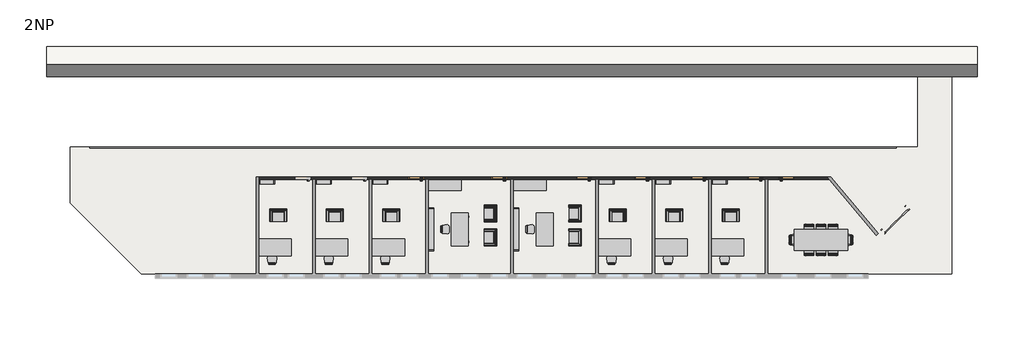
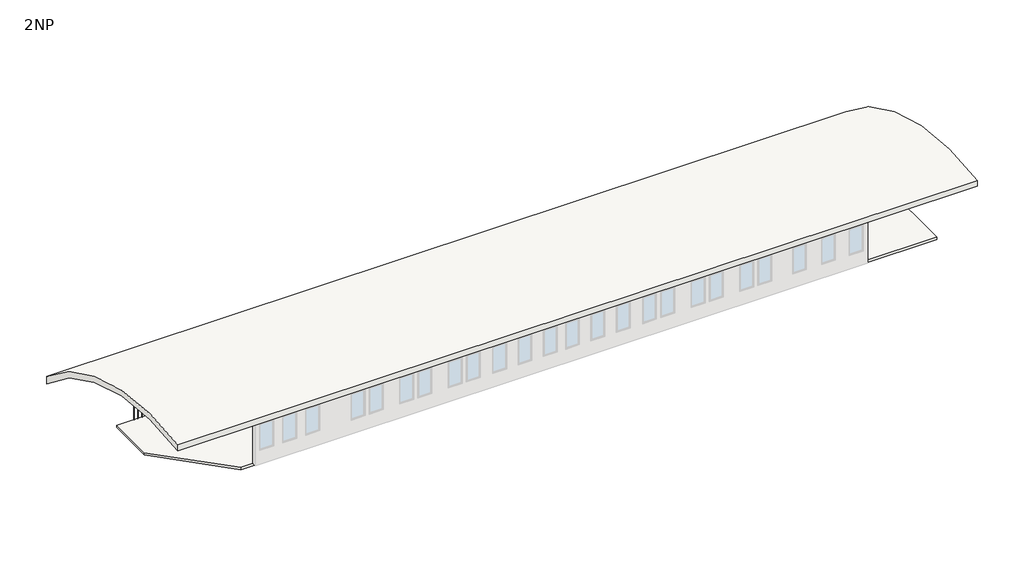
# One storey, part 2 of 2: 45 furniture elements, 7 doors, 1 railing, 1 roof, 1 slab, 1 wall.
"""IFC4 building model written with IfcOpenShell, lengths in millimetres."""

from ifc_helpers import new_model, si_unit, point, frame, frame_2d, origin, place, context, project, spatial, polyline, circle_curve, trimmed, segment, composite_curve, outline, extrude, faceted_brep, transform, mapped, element, save
from components import door_900_x_2000_c64c60ef, door_900_x_2000_4c66a93d, chair_desk_4_chair_task_arms_3b363349, chair_desk_5_chair_task_b7f3823b, m_chair_corbu_m_chair_corbu_2764bdef, m_chair_desk_desk_chair_ccc35c8f, m_credenza_1830_x_0610mm_1080a9db, m_desk_1830_x_915mm_d81ff609, m_shelving_0915_x_0254_x_1830mm_1d5e155e, m_shelving_2440_x_0305_x_2134mm_59c1a9e4, table_conference_w_chairs_1200_x_3050mm_930714f4, railing_1100mm_11e5196f, railing_1100mm_f5e6f717

model = new_model("IFC4")

# Units and contexts
model_context = context("Model", 3, world=origin())
ifc_project = project(units=[si_unit("LENGTHUNIT", "METRE", prefix="MILLI")], contexts=[model_context])

# Site, building, storey
site = spatial("IfcSite", under=ifc_project)
building = spatial("IfcBuilding", under=site)
storey = spatial("IfcBuildingStorey", under=building, Name="2NP", Elevation=4000.0)

# Doors
placement = place(None, origin())
door_900_x_2000_shape = door_900_x_2000_c64c60ef(model_context)
element("IfcDoor", 1, ObjectType="Jednokridle oboustrana zaruben : 900 x 2000", at=placement, inside=storey, context=model_context, shape_type="MappedRepresentation", body=[
    mapped(door_900_x_2000_shape, transform((29095.9255273, 791.5551306, 4000.0), x_axis=(-1.0, 0.0, 0.0), y_axis=(0.0, -1.0, 0.0), z_axis=(0.0, 0.0, 1.0))),
])
door_900_x_2000_2_shape = door_900_x_2000_4c66a93d(model_context)
element("IfcDoor", 2, ObjectType="Jednokridle oboustrana zaruben : 900 x 2000", at=placement, inside=storey, context=model_context, shape_type="MappedRepresentation", body=[
    mapped(door_900_x_2000_2_shape, transform((8182.4255273, 791.5551306, 4000.0), x_axis=(1.0, 0.0, 0.0), y_axis=(0.0, 1.0, 0.0), z_axis=(0.0, 0.0, 1.0))),
])
element("IfcDoor", 3, ObjectType="Jednokridle oboustrana zaruben : 900 x 2000", at=placement, inside=storey, context=model_context, shape_type="MappedRepresentation", body=[
    mapped(door_900_x_2000_2_shape, transform((24182.4255273, 791.5551306, 4000.0), x_axis=(1.0, 0.0, 0.0), y_axis=(0.0, 1.0, 0.0), z_axis=(0.0, 0.0, 1.0))),
])
element("IfcDoor", 4, ObjectType="Jednokridle oboustrana zaruben : 900 x 2000", at=placement, inside=storey, context=model_context, shape_type="MappedRepresentation", body=[
    mapped(door_900_x_2000_2_shape, transform((27382.4255273, 791.5551306, 4000.0), x_axis=(1.0, 0.0, 0.0), y_axis=(0.0, 1.0, 0.0), z_axis=(0.0, 0.0, 1.0))),
])
element("IfcDoor", 5, ObjectType="Jednokridle oboustrana zaruben : 900 x 2000", at=placement, inside=storey, context=model_context, shape_type="MappedRepresentation", body=[
    mapped(door_900_x_2000_2_shape, transform((12882.4255273, 791.5551306, 4000.0), x_axis=(1.0, 0.0, 0.0), y_axis=(0.0, 1.0, 0.0), z_axis=(0.0, 0.0, 1.0))),
])
element("IfcDoor", 6, ObjectType="Jednokridle oboustrana zaruben : 900 x 2000", at=placement, inside=storey, context=model_context, shape_type="MappedRepresentation", body=[
    mapped(door_900_x_2000_2_shape, transform((20982.4255273, 791.5551306, 4000.0), x_axis=(1.0, 0.0, 0.0), y_axis=(0.0, 1.0, 0.0), z_axis=(0.0, 0.0, 1.0))),
])
element("IfcDoor", 7, ObjectType="Jednokridle oboustrana zaruben : 900 x 2000", at=placement, inside=storey, context=model_context, shape_type="MappedRepresentation", body=[
    mapped(door_900_x_2000_2_shape, transform((17682.4255273, 791.5551306, 4000.0), x_axis=(1.0, 0.0, 0.0), y_axis=(0.0, 1.0, 0.0), z_axis=(0.0, 0.0, 1.0))),
])

# Furniture
chair_desk_4_chair_task_arms_shape = chair_desk_4_chair_task_arms_3b363349(model_context)
element("IfcFurniture", 8, ObjectType="Chair - Desk (4) : Chair-Task Arms", at=placement, inside=storey, context=model_context, shape_type="MappedRepresentation", body=[
    mapped(chair_desk_4_chair_task_arms_shape, transform((32615.6301008, -2847.5591131, 4000.0), x_axis=(0.0, 1.0, 0.0), y_axis=(-1.0, 0.0, 0.0), z_axis=(0.0, 0.0, 1.0))),
])
element("IfcFurniture", 9, ObjectType="Chair - Desk (4) : Chair-Task Arms", at=placement, inside=storey, context=model_context, shape_type="MappedRepresentation", body=[
    mapped(chair_desk_4_chair_task_arms_shape, transform((29527.7382975, -2565.5774738, 4000.0), x_axis=(0.0, -1.0000000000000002, 0.0), y_axis=(1.0000000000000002, 0.0, 0.0), z_axis=(0.0, 0.0, 1.0))),
])
chair_desk_5_chair_task_shape = chair_desk_5_chair_task_b7f3823b(model_context)
element("IfcFurniture", 10, ObjectType="Chair - Desk (5) : Chair-Task", at=placement, inside=storey, context=model_context, shape_type="MappedRepresentation", body=[
    mapped(chair_desk_5_chair_task_shape, transform((31897.6750188, -2087.6223918, 4000.0), x_axis=(-1.0, 0.0, 0.0), y_axis=(0.0, -1.0, 0.0), z_axis=(0.0, 0.0, 1.0))),
])
element("IfcFurniture", 11, ObjectType="Chair - Desk (5) : Chair-Task", at=placement, inside=storey, context=model_context, shape_type="MappedRepresentation", body=[
    mapped(chair_desk_5_chair_task_shape, transform((31615.6933794, -3325.5141951, 4000.0), x_axis=(1.0, 0.0, 0.0), y_axis=(0.0, 1.0, 0.0), z_axis=(0.0, 0.0, 1.0))),
])
element("IfcFurniture", 12, ObjectType="Chair - Desk (5) : Chair-Task", at=placement, inside=storey, context=model_context, shape_type="MappedRepresentation", body=[
    mapped(chair_desk_5_chair_task_shape, transform((30527.9250188, -2087.6223918, 4000.0), x_axis=(-1.0, 0.0, 0.0), y_axis=(0.0, -1.0, 0.0), z_axis=(0.0, 0.0, 1.0))),
])
element("IfcFurniture", 13, ObjectType="Chair - Desk (5) : Chair-Task", at=placement, inside=storey, context=model_context, shape_type="MappedRepresentation", body=[
    mapped(chair_desk_5_chair_task_shape, transform((30245.9433794, -3325.5141951, 4000.0), x_axis=(1.0, 0.0, 0.0), y_axis=(0.0, 1.0, 0.0), z_axis=(0.0, 0.0, 1.0))),
])
element("IfcFurniture", 14, ObjectType="Chair - Desk (5) : Chair-Task", at=placement, inside=storey, context=model_context, shape_type="MappedRepresentation", body=[
    mapped(chair_desk_5_chair_task_shape, transform((31212.8000188, -2087.6223918, 4000.0), x_axis=(-1.0, 0.0, 0.0), y_axis=(0.0, -1.0, 0.0), z_axis=(0.0, 0.0, 1.0))),
])
element("IfcFurniture", 15, ObjectType="Chair - Desk (5) : Chair-Task", at=placement, inside=storey, context=model_context, shape_type="MappedRepresentation", body=[
    mapped(chair_desk_5_chair_task_shape, transform((30930.8183794, -3325.5141951, 4000.0), x_axis=(1.0, 0.0, 0.0), y_axis=(0.0, 1.0, 0.0), z_axis=(0.0, 0.0, 1.0))),
])
m_chair_corbu_m_chair_corbu_shape = m_chair_corbu_m_chair_corbu_2764bdef(model_context)
element("IfcFurniture", 16, ObjectType="M_Chair-Corbu : M_Chair-Corbu", at=placement, inside=storey, context=model_context, shape_type="MappedRepresentation", body=[
    mapped(m_chair_corbu_m_chair_corbu_shape, transform((6189.3517568, -1787.3719186, 4000.0), x_axis=(1.0, 0.0, 0.0), y_axis=(0.0, 1.0, 0.0), z_axis=(0.0, 0.0, 1.0))),
])
element("IfcFurniture", 17, ObjectType="M_Chair-Corbu : M_Chair-Corbu", at=placement, inside=storey, context=model_context, shape_type="MappedRepresentation", body=[
    mapped(m_chair_corbu_m_chair_corbu_shape, transform((-210.6482432, -1787.3719186, 4000.0), x_axis=(1.0, 0.0, 0.0), y_axis=(0.0, 1.0, 0.0), z_axis=(0.0, 0.0, 1.0))),
])
element("IfcFurniture", 18, ObjectType="M_Chair-Corbu : M_Chair-Corbu", at=placement, inside=storey, context=model_context, shape_type="MappedRepresentation", body=[
    mapped(m_chair_corbu_m_chair_corbu_shape, transform((2989.3517568, -1787.3719186, 4000.0), x_axis=(1.0, 0.0, 0.0), y_axis=(0.0, 1.0, 0.0), z_axis=(0.0, 0.0, 1.0))),
])
element("IfcFurniture", 19, ObjectType="M_Chair-Corbu : M_Chair-Corbu", at=placement, inside=storey, context=model_context, shape_type="MappedRepresentation", body=[
    mapped(m_chair_corbu_m_chair_corbu_shape, transform((22189.3517568, -1787.3719186, 4000.0), x_axis=(1.0, 0.0, 0.0), y_axis=(0.0, 1.0, 0.0), z_axis=(0.0, 0.0, 1.0))),
])
element("IfcFurniture", 20, ObjectType="M_Chair-Corbu : M_Chair-Corbu", at=placement, inside=storey, context=model_context, shape_type="MappedRepresentation", body=[
    mapped(m_chair_corbu_m_chair_corbu_shape, transform((25389.3517568, -1787.3719186, 4000.0), x_axis=(1.0, 0.0, 0.0), y_axis=(0.0, 1.0, 0.0), z_axis=(0.0, 0.0, 1.0))),
])
element("IfcFurniture", 21, ObjectType="M_Chair-Corbu : M_Chair-Corbu", at=placement, inside=storey, context=model_context, shape_type="MappedRepresentation", body=[
    mapped(m_chair_corbu_m_chair_corbu_shape, transform((11895.9484781, -647.2210989, 4000.0), x_axis=(0.0, -1.0, 0.0), y_axis=(1.0, 0.0, 0.0), z_axis=(0.0, 0.0, 1.0))),
])
element("IfcFurniture", 22, ObjectType="M_Chair-Corbu : M_Chair-Corbu", at=placement, inside=storey, context=model_context, shape_type="MappedRepresentation", body=[
    mapped(m_chair_corbu_m_chair_corbu_shape, transform((18989.3517568, -1787.3719186, 4000.0), x_axis=(1.0, 0.0, 0.0), y_axis=(0.0, 1.0, 0.0), z_axis=(0.0, 0.0, 1.0))),
])
element("IfcFurniture", 23, ObjectType="M_Chair-Corbu : M_Chair-Corbu", at=placement, inside=storey, context=model_context, shape_type="MappedRepresentation", body=[
    mapped(m_chair_corbu_m_chair_corbu_shape, transform((11895.9484781, -1992.4210989, 4000.0), x_axis=(0.0, -1.0, 0.0), y_axis=(1.0, 0.0, 0.0), z_axis=(0.0, 0.0, 1.0))),
])
element("IfcFurniture", 24, ObjectType="M_Chair-Corbu : M_Chair-Corbu", at=placement, inside=storey, context=model_context, shape_type="MappedRepresentation", body=[
    mapped(m_chair_corbu_m_chair_corbu_shape, transform((16695.9484781, -647.2210989, 4000.0), x_axis=(0.0, -1.0, 0.0), y_axis=(1.0, 0.0, 0.0), z_axis=(0.0, 0.0, 1.0))),
])
element("IfcFurniture", 25, ObjectType="M_Chair-Corbu : M_Chair-Corbu", at=placement, inside=storey, context=model_context, shape_type="MappedRepresentation", body=[
    mapped(m_chair_corbu_m_chair_corbu_shape, transform((16695.9484781, -1992.4210989, 4000.0), x_axis=(0.0, -1.0, 0.0), y_axis=(1.0, 0.0, 0.0), z_axis=(0.0, 0.0, 1.0))),
])
m_chair_desk_desk_chair_shape = m_chair_desk_desk_chair_ccc35c8f(model_context)
element("IfcFurniture", 26, ObjectType="M_Chair-Desk : Desk Chair", at=placement, inside=storey, context=model_context, shape_type="MappedRepresentation", body=[
    mapped(m_chair_desk_desk_chair_shape, transform((19.9255273, -4017.6948694, 4000.0), x_axis=(1.0, 0.0, 0.0), y_axis=(0.0, 1.0, 0.0), z_axis=(0.0, 0.0, 1.0))),
])
element("IfcFurniture", 27, ObjectType="M_Chair-Desk : Desk Chair", at=placement, inside=storey, context=model_context, shape_type="MappedRepresentation", body=[
    mapped(m_chair_desk_desk_chair_shape, transform((3219.9255273, -4017.6948694, 4000.0), x_axis=(1.0, 0.0, 0.0), y_axis=(0.0, 1.0, 0.0), z_axis=(0.0, 0.0, 1.0))),
])
element("IfcFurniture", 28, ObjectType="M_Chair-Desk : Desk Chair", at=placement, inside=storey, context=model_context, shape_type="MappedRepresentation", body=[
    mapped(m_chair_desk_desk_chair_shape, transform((6419.9255273, -4017.6948694, 4000.0), x_axis=(1.0, 0.0, 0.0), y_axis=(0.0, 1.0, 0.0), z_axis=(0.0, 0.0, 1.0))),
])
element("IfcFurniture", 29, ObjectType="M_Chair-Desk : Desk Chair", at=placement, inside=storey, context=model_context, shape_type="MappedRepresentation", body=[
    mapped(m_chair_desk_desk_chair_shape, transform((22419.9255273, -4017.6948694, 4000.0), x_axis=(1.0, 0.0, 0.0), y_axis=(0.0, 1.0, 0.0), z_axis=(0.0, 0.0, 1.0))),
])
element("IfcFurniture", 30, ObjectType="M_Chair-Desk : Desk Chair", at=placement, inside=storey, context=model_context, shape_type="MappedRepresentation", body=[
    mapped(m_chair_desk_desk_chair_shape, transform((25619.9255273, -4017.6948694, 4000.0), x_axis=(1.0, 0.0, 0.0), y_axis=(0.0, 1.0, 0.0), z_axis=(0.0, 0.0, 1.0))),
])
element("IfcFurniture", 31, ObjectType="M_Chair-Desk : Desk Chair", at=placement, inside=storey, context=model_context, shape_type="MappedRepresentation", body=[
    mapped(m_chair_desk_desk_chair_shape, transform((9635.1978774, -2107.9948694, 4000.0), x_axis=(0.0, -1.0, 0.0), y_axis=(1.0, 0.0, 0.0), z_axis=(0.0, 0.0, 1.0))),
])
element("IfcFurniture", 32, ObjectType="M_Chair-Desk : Desk Chair", at=placement, inside=storey, context=model_context, shape_type="MappedRepresentation", body=[
    mapped(m_chair_desk_desk_chair_shape, transform((19219.9255273, -4017.6948694, 4000.0), x_axis=(1.0, 0.0, 0.0), y_axis=(0.0, 1.0, 0.0), z_axis=(0.0, 0.0, 1.0))),
])
element("IfcFurniture", 33, ObjectType="M_Chair-Desk : Desk Chair", at=placement, inside=storey, context=model_context, shape_type="MappedRepresentation", body=[
    mapped(m_chair_desk_desk_chair_shape, transform((14435.1978774, -2107.9948694, 4000.0), x_axis=(0.0, -1.0, 0.0), y_axis=(1.0, 0.0, 0.0), z_axis=(0.0, 0.0, 1.0))),
])
m_credenza_1830_x_0610mm_shape = m_credenza_1830_x_0610mm_1080a9db(model_context)
element("IfcFurniture", 34, ObjectType="M_Credenza : 1830 x 0610mm", at=placement, inside=storey, context=model_context, shape_type="MappedRepresentation", body=[
    mapped(m_credenza_1830_x_0610mm_shape, transform((9713.881265, 412.7248027, 4000.0), x_axis=(1.0, 0.0, 0.0), y_axis=(0.0, 1.0, 0.0), z_axis=(0.0, 0.0, 1.0))),
])
element("IfcFurniture", 35, ObjectType="M_Credenza : 1830 x 0610mm", at=placement, inside=storey, context=model_context, shape_type="MappedRepresentation", body=[
    mapped(m_credenza_1830_x_0610mm_shape, transform((14513.881265, 412.7248027, 4000.0), x_axis=(1.0, 0.0, 0.0), y_axis=(0.0, 1.0, 0.0), z_axis=(0.0, 0.0, 1.0))),
])
m_desk_1830_x_915mm_shape = m_desk_1830_x_915mm_d81ff609(model_context)
element("IfcFurniture", 36, ObjectType="M_Desk : 1830 x 915mm", at=placement, inside=storey, context=model_context, shape_type="MappedRepresentation", body=[
    mapped(m_desk_1830_x_915mm_shape, transform((-741.5744727, -3592.6948694, 4000.0), x_axis=(1.0, 0.0, 0.0), y_axis=(0.0, 1.0, 0.0), z_axis=(0.0, 0.0, 1.0))),
])
element("IfcFurniture", 37, ObjectType="M_Desk : 1830 x 915mm", at=placement, inside=storey, context=model_context, shape_type="MappedRepresentation", body=[
    mapped(m_desk_1830_x_915mm_shape, transform((2458.4255273, -3592.6948694, 4000.0), x_axis=(1.0, 0.0, 0.0), y_axis=(0.0, 1.0, 0.0), z_axis=(0.0, 0.0, 1.0))),
])
element("IfcFurniture", 38, ObjectType="M_Desk : 1830 x 915mm", at=placement, inside=storey, context=model_context, shape_type="MappedRepresentation", body=[
    mapped(m_desk_1830_x_915mm_shape, transform((5658.4255273, -3592.6948694, 4000.0), x_axis=(1.0, 0.0, 0.0), y_axis=(0.0, 1.0, 0.0), z_axis=(0.0, 0.0, 1.0))),
])
element("IfcFurniture", 39, ObjectType="M_Desk : 1830 x 915mm", at=placement, inside=storey, context=model_context, shape_type="MappedRepresentation", body=[
    mapped(m_desk_1830_x_915mm_shape, transform((21658.4255273, -3592.6948694, 4000.0), x_axis=(1.0, 0.0, 0.0), y_axis=(0.0, 1.0, 0.0), z_axis=(0.0, 0.0, 1.0))),
])
element("IfcFurniture", 40, ObjectType="M_Desk : 1830 x 915mm", at=placement, inside=storey, context=model_context, shape_type="MappedRepresentation", body=[
    mapped(m_desk_1830_x_915mm_shape, transform((24858.4255273, -3592.6948694, 4000.0), x_axis=(1.0, 0.0, 0.0), y_axis=(0.0, 1.0, 0.0), z_axis=(0.0, 0.0, 1.0))),
])
element("IfcFurniture", 41, ObjectType="M_Desk : 1830 x 915mm", at=placement, inside=storey, context=model_context, shape_type="MappedRepresentation", body=[
    mapped(m_desk_1830_x_915mm_shape, transform((10176.162903, -1192.9948694, 4000.0), x_axis=(0.0, -1.0, 0.0), y_axis=(1.0, 0.0, 0.0), z_axis=(0.0, 0.0, 1.0))),
])
element("IfcFurniture", 42, ObjectType="M_Desk : 1830 x 915mm", at=placement, inside=storey, context=model_context, shape_type="MappedRepresentation", body=[
    mapped(m_desk_1830_x_915mm_shape, transform((18458.4255273, -3592.6948694, 4000.0), x_axis=(1.0, 0.0, 0.0), y_axis=(0.0, 1.0, 0.0), z_axis=(0.0, 0.0, 1.0))),
])
element("IfcFurniture", 43, ObjectType="M_Desk : 1830 x 915mm", at=placement, inside=storey, context=model_context, shape_type="MappedRepresentation", body=[
    mapped(m_desk_1830_x_915mm_shape, transform((14976.162903, -1192.9948694, 4000.0), x_axis=(0.0, -1.0, 0.0), y_axis=(1.0, 0.0, 0.0), z_axis=(0.0, 0.0, 1.0))),
])
m_shelving_0915_x_0254_x_1830mm_shape = m_shelving_0915_x_0254_x_1830mm_1d5e155e(model_context)
element("IfcFurniture", 44, ObjectType="M_Shelving : 0915 x 0254 x 1830mm", at=placement, inside=storey, context=model_context, shape_type="MappedRepresentation", body=[
    mapped(m_shelving_0915_x_0254_x_1830mm_shape, transform((-284.0744727, 290.5051306, 4000.0), x_axis=(-1.0, 0.0, 0.0), y_axis=(0.0, -1.0, 0.0), z_axis=(0.0, 0.0, 1.0))),
])
element("IfcFurniture", 45, ObjectType="M_Shelving : 0915 x 0254 x 1830mm", at=placement, inside=storey, context=model_context, shape_type="MappedRepresentation", body=[
    mapped(m_shelving_0915_x_0254_x_1830mm_shape, transform((2915.9255273, 290.5051306, 4000.0), x_axis=(-1.0, 0.0, 0.0), y_axis=(0.0, -1.0, 0.0), z_axis=(0.0, 0.0, 1.0))),
])
element("IfcFurniture", 46, ObjectType="M_Shelving : 0915 x 0254 x 1830mm", at=placement, inside=storey, context=model_context, shape_type="MappedRepresentation", body=[
    mapped(m_shelving_0915_x_0254_x_1830mm_shape, transform((6115.9255273, 290.5051306, 4000.0), x_axis=(-1.0, 0.0, 0.0), y_axis=(0.0, -1.0, 0.0), z_axis=(0.0, 0.0, 1.0))),
])
element("IfcFurniture", 47, ObjectType="M_Shelving : 0915 x 0254 x 1830mm", at=placement, inside=storey, context=model_context, shape_type="MappedRepresentation", body=[
    mapped(m_shelving_0915_x_0254_x_1830mm_shape, transform((22115.9255273, 290.5051306, 4000.0), x_axis=(-1.0, 0.0, 0.0), y_axis=(0.0, -1.0, 0.0), z_axis=(0.0, 0.0, 1.0))),
])
element("IfcFurniture", 48, ObjectType="M_Shelving : 0915 x 0254 x 1830mm", at=placement, inside=storey, context=model_context, shape_type="MappedRepresentation", body=[
    mapped(m_shelving_0915_x_0254_x_1830mm_shape, transform((25315.9255273, 290.5051306, 4000.0), x_axis=(-1.0, 0.0, 0.0), y_axis=(0.0, -1.0, 0.0), z_axis=(0.0, 0.0, 1.0))),
])
element("IfcFurniture", 49, ObjectType="M_Shelving : 0915 x 0254 x 1830mm", at=placement, inside=storey, context=model_context, shape_type="MappedRepresentation", body=[
    mapped(m_shelving_0915_x_0254_x_1830mm_shape, transform((18915.9255273, 290.5051306, 4000.0), x_axis=(-1.0, 0.0, 0.0), y_axis=(0.0, -1.0, 0.0), z_axis=(0.0, 0.0, 1.0))),
])
m_shelving_2440_x_0305_x_2134mm_shape = m_shelving_2440_x_0305_x_2134mm_59c1a9e4(model_context)
element("IfcFurniture", 50, ObjectType="M_Shelving : 2440 x 0305 x 2134mm", at=placement, inside=storey, context=model_context, shape_type="MappedRepresentation", body=[
    mapped(m_shelving_2440_x_0305_x_2134mm_shape, transform((9315.7255273, -2107.9948694, 4000.0), x_axis=(0.0, -1.0, 0.0), y_axis=(1.0, 0.0, 0.0), z_axis=(0.0, 0.0, 1.0))),
])
element("IfcFurniture", 51, ObjectType="M_Shelving : 2440 x 0305 x 2134mm", at=placement, inside=storey, context=model_context, shape_type="MappedRepresentation", body=[
    mapped(m_shelving_2440_x_0305_x_2134mm_shape, transform((14115.7255273, -2107.9948694, 4000.0), x_axis=(0.0, -1.0, 0.0), y_axis=(1.0, 0.0, 0.0), z_axis=(0.0, 0.0, 1.0))),
])
table_conference_w_chairs_1200_x_3050mm_shape = table_conference_w_chairs_1200_x_3050mm_930714f4(model_context)
element("IfcFurniture", 52, ObjectType="Table - Conference w Chairs : 1200 x 3050mm", at=placement, inside=storey, context=model_context, shape_type="MappedRepresentation", body=[
    mapped(table_conference_w_chairs_1200_x_3050mm_shape, transform((31071.6841991, -2706.5682935, 4000.0), x_axis=(-1.0, 0.0, 0.0), y_axis=(0.0, -1.0, 0.0), z_axis=(0.0, 0.0, 1.0))),
])

# Railing
railing_1100mm_shape = railing_1100mm_11e5196f(model_context)
railing_1100mm_2_shape = railing_1100mm_f5e6f717(model_context)
element("IfcRailing", 53, ObjectType="1100mm", at=placement, inside=storey, context=model_context, shape_type="MappedRepresentation", body=[
    mapped(railing_1100mm_shape, transform((0.0, 0.0, 0.0), x_axis=(1.0, 0.0, 0.0), y_axis=(0.0, 1.0, 0.0), z_axis=(0.0, 0.0, 1.0))),
    mapped(railing_1100mm_2_shape, transform((0.0, 0.0, 0.0), x_axis=(1.0, 0.0, 0.0), y_axis=(0.0, 1.0, 0.0), z_axis=(0.0, 0.0, 1.0))),
])

# Roof
element("IfcRoof", 54, ObjectType="Generic - 400mm", at=placement, inside=storey, context=model_context, shape_type="SweptSolid", body=[
    extrude(outline(composite_curve([segment(trimmed(circle_curve(frame_2d((-3782.5530793, -9232.9575956)), 18209.3296337), [point((-6745.0106033, 8733.7764183))], [point((8250.6718533, 4433.8336676))], False, "CARTESIAN"), True, "CONTINUOUS"), segment(polyline([(8250.6718533, 4433.8336676), (8250.6718533, 3896.1596529)]), True, "CONTINUOUS"), segment(trimmed(circle_curve(frame_2d((-3782.5530793, -9232.9575956)), 17809.3296337), [point((8250.6718533, 3896.1596529))], [point((-6745.0106033, 8328.2515718))], True, "CARTESIAN"), True, "CONTINUOUS"), segment(polyline([(-6745.0106033, 8328.2515718), (-6745.0106033, 8733.7764183)]), True, "CONTINUOUS")], self_intersect=False)), frame((-12744.3244727, 0.0, 0.0), z_axis=(1.0, 0.0, 0.0), x_axis=(0.0, 1.0, 0.0)), (0.0, 0.0, 1.0), 52667.0),
])

# Slab
element("IfcSlab", 55, ObjectType="Generic 150mm", at=placement, inside=storey, context=model_context, shape_type="SweptSolid", body=[
    extrude(outline(polyline([(-11410.8244727, -601.928028), (-11410.8244727, 2541.5551306), (36558.4255273, 2541.5551306), (36558.4255273, 7108.0551306), (38455.6755273, 7108.0551306), (38455.6755273, -4624.9448694), (-7387.8076313, -4624.9448694), (-11410.8244727, -601.928028)])), frame((0.0, 0.0, 3850.0), z_axis=(0.0, 0.0, 1.0), x_axis=(1.0, 0.0, 0.0)), (0.0, 0.0, 1.0), 150.0),
])

# Wall
element("IfcWall", 56, ObjectType="Interior - 138mm Partition (1-hr)", at=placement, inside=storey, context=model_context, shape_type="Brep", body=[
    faceted_brep([(20512.4255273, 860.8051306, 4000.0), (18112.4255273, 860.8051306, 4000.0), (18112.4255273, 860.8051306, 6050.0), (17212.4255273, 860.8051306, 6050.0), (17212.4255273, 860.8051306, 4000.0), (13312.4255273, 860.8051306, 4000.0), (13312.4255273, 860.8051306, 6050.0), (12412.4255273, 860.8051306, 6050.0), (12412.4255273, 860.8051306, 4000.0), (8612.4255273, 860.8051306, 4000.0), (8612.4255273, 860.8051306, 6050.0), (7712.4255273, 860.8051306, 6050.0), (7712.4255273, 860.8051306, 4000.0), (5412.4255273, 860.8051306, 4000.0), (5412.4255273, 860.8051306, 6050.0), (4512.4255273, 860.8051306, 6050.0), (4512.4255273, 860.8051306, 4000.0), (2212.4255273, 860.8051306, 4000.0), (2212.4255273, 860.8051306, 6050.0), (1312.4255273, 860.8051306, 6050.0), (1312.4255273, 860.8051306, 4000.0), (-741.5744727, 860.8051306, 4000.0), (-741.5744727, 860.8051306, 7700.0), (31432.8028061, 860.8051306, 7700.0), (31432.8028061, 860.8051306, 4000.0), (29565.9255273, 860.8051306, 4000.0), (29565.9255273, 860.8051306, 6050.0), (28665.9255273, 860.8051306, 6050.0), (28665.9255273, 860.8051306, 4000.0), (27812.4255273, 860.8051306, 4000.0), (27812.4255273, 860.8051306, 6050.0), (26912.4255273, 860.8051306, 6050.0), (26912.4255273, 860.8051306, 4000.0), (24612.4255273, 860.8051306, 4000.0), (24612.4255273, 860.8051306, 6050.0), (23712.4255273, 860.8051306, 6050.0), (23712.4255273, 860.8051306, 4000.0), (21412.4255273, 860.8051306, 4000.0), (21412.4255273, 860.8051306, 6050.0), (20512.4255273, 860.8051306, 6050.0), (18112.4255273, 722.3051306, 6050.0), (18112.4255273, 722.3051306, 4000.0), (18319.9255273, 722.3051306, 4000.0), (18458.4255273, 722.3051306, 4000.0), (20512.4255273, 722.3051306, 4000.0), (20512.4255273, 722.3051306, 6050.0), (21412.4255273, 722.3051306, 6050.0), (21412.4255273, 722.3051306, 4000.0), (21519.9255273, 722.3051306, 4000.0), (21658.4255273, 722.3051306, 4000.0), (23712.4255273, 722.3051306, 4000.0), (23712.4255273, 722.3051306, 6050.0), (24612.4255273, 722.3051306, 6050.0), (24612.4255273, 722.3051306, 4000.0), (24719.9255273, 722.3051306, 4000.0), (24858.4255273, 722.3051306, 4000.0), (26912.4255273, 722.3051306, 4000.0), (26912.4255273, 722.3051306, 6050.0), (27812.4255273, 722.3051306, 6050.0), (27812.4255273, 722.3051306, 4000.0), (27919.9255273, 722.3051306, 4000.0), (28058.4255273, 722.3051306, 4000.0), (28665.9255273, 722.3051306, 4000.0), (28665.9255273, 722.3051306, 6050.0), (29565.9255273, 722.3051306, 6050.0), (29565.9255273, 722.3051306, 4000.0), (31549.018105, 722.3051306, 4000.0), (31549.018105, 722.3051306, 7700.0), (28058.4255273, 722.3051306, 7700.0), (27919.9255273, 722.3051306, 7700.0), (24858.4255273, 722.3051306, 7700.0), (24719.9255273, 722.3051306, 7700.0), (21658.4255273, 722.3051306, 7700.0), (21519.9255273, 722.3051306, 7700.0), (18458.4255273, 722.3051306, 7700.0), (18319.9255273, 722.3051306, 7700.0), (13658.4255273, 722.3051306, 7700.0), (13519.9255273, 722.3051306, 7700.0), (8858.4255273, 722.3051306, 7700.0), (8719.9255273, 722.3051306, 7700.0), (5658.4255273, 722.3051306, 7700.0), (5519.9255273, 722.3051306, 7700.0), (2458.4255273, 722.3051306, 7700.0), (2319.9255273, 722.3051306, 7700.0), (-741.5744727, 722.3051306, 7700.0), (-741.5744727, 722.3051306, 4000.0), (1312.4255273, 722.3051306, 4000.0), (1312.4255273, 722.3051306, 6050.0), (2212.4255273, 722.3051306, 6050.0), (2212.4255273, 722.3051306, 4000.0), (2319.9255273, 722.3051306, 4000.0), (2458.4255273, 722.3051306, 4000.0), (4512.4255273, 722.3051306, 4000.0), (4512.4255273, 722.3051306, 6050.0), (5412.4255273, 722.3051306, 6050.0), (5412.4255273, 722.3051306, 4000.0), (5519.9255273, 722.3051306, 4000.0), (5658.4255273, 722.3051306, 4000.0), (7712.4255273, 722.3051306, 4000.0), (7712.4255273, 722.3051306, 6050.0), (8612.4255273, 722.3051306, 6050.0), (8612.4255273, 722.3051306, 4000.0), (8719.9255273, 722.3051306, 4000.0), (8858.4255273, 722.3051306, 4000.0), (12412.4255273, 722.3051306, 4000.0), (12412.4255273, 722.3051306, 6050.0), (13312.4255273, 722.3051306, 6050.0), (13312.4255273, 722.3051306, 4000.0), (13519.9255273, 722.3051306, 4000.0), (13658.4255273, 722.3051306, 4000.0), (17212.4255273, 722.3051306, 4000.0), (17212.4255273, 722.3051306, 6050.0)], [[[0, 1, 2, 3, 4, 5, 6, 7, 8, 9, 10, 11, 12, 13, 14, 15, 16, 17, 18, 19, 20, 21, 22, 23, 24, 25, 26, 27, 28, 29, 30, 31, 32, 33, 34, 35, 36, 37, 38, 39]], [[40, 41, 42, 43, 44, 45, 46, 47, 48, 49, 50, 51, 52, 53, 54, 55, 56, 57, 58, 59, 60, 61, 62, 63, 64, 65, 66, 67, 68, 69, 70, 71, 72, 73, 74, 75, 76, 77, 78, 79, 80, 81, 82, 83, 84, 85, 86, 87, 88, 89, 90, 91, 92, 93, 94, 95, 96, 97, 98, 99, 100, 101, 102, 103, 104, 105, 106, 107, 108, 109, 110, 111]], [[62, 61, 60, 59, 29, 28]], [[25, 24, 66, 65]], [[86, 85, 21, 20]], [[92, 91, 90, 89, 17, 16]], [[98, 97, 96, 95, 13, 12]], [[44, 43, 42, 41, 1, 0]], [[50, 49, 48, 47, 37, 36]], [[56, 55, 54, 53, 33, 32]], [[104, 103, 102, 101, 9, 8]], [[110, 109, 108, 107, 5, 4]], [[23, 22, 84, 83, 82, 81, 80, 79, 78, 77, 76, 75, 74, 73, 72, 71, 70, 69, 68, 67]], [[24, 23, 67, 66]], [[22, 21, 85, 84]], [[63, 62, 28, 27]], [[64, 63, 27, 26]], [[65, 64, 26, 25]], [[18, 17, 89, 88]], [[19, 18, 88, 87]], [[20, 19, 87, 86]], [[14, 13, 95, 94]], [[15, 14, 94, 93]], [[16, 15, 93, 92]], [[10, 9, 101, 100]], [[11, 10, 100, 99]], [[12, 11, 99, 98]], [[38, 37, 47, 46]], [[39, 38, 46, 45]], [[0, 39, 45, 44]], [[34, 33, 53, 52]], [[35, 34, 52, 51]], [[36, 35, 51, 50]], [[30, 29, 59, 58]], [[31, 30, 58, 57]], [[32, 31, 57, 56]], [[6, 5, 107, 106]], [[7, 6, 106, 105]], [[8, 7, 105, 104]], [[2, 1, 41, 40]], [[3, 2, 40, 111]], [[4, 3, 111, 110]]]),
])

save(model, "model.ifc")
